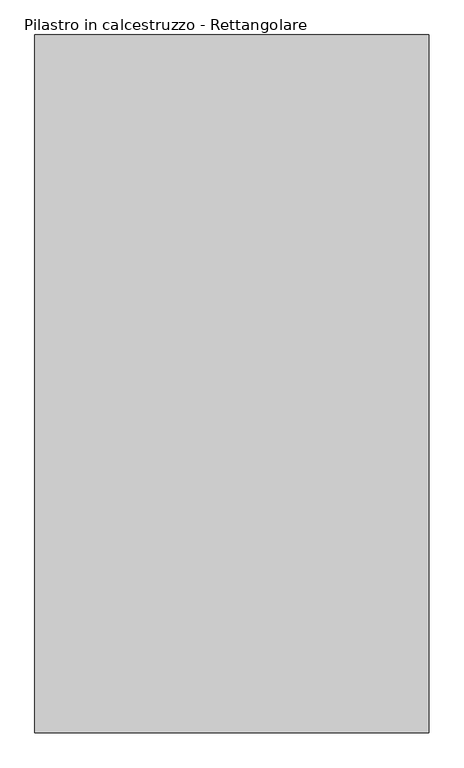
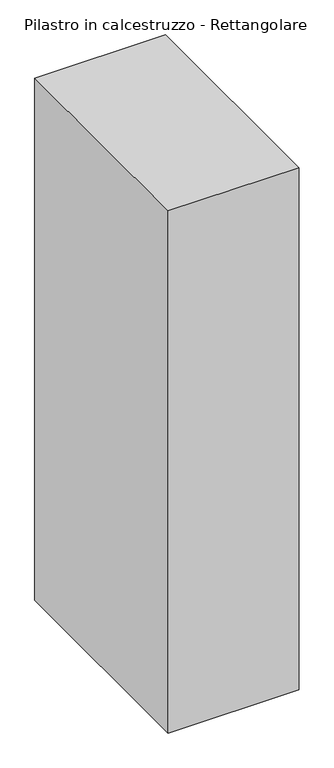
"""IFC4 building model written with IfcOpenShell, lengths in millimetres: column geometry, Pilastro in calcestruzzo - Rettangolare : 176*99.5."""

from ifc_helpers import new_model, si_unit, origin, origin_with_axes, place, context, project, spatial, polyline, outline, extrude, source, transform, mapped, element, save


def pilastro_in_calcestruzzo_rettangolare_0d96be71(model_context):
    return source(origin(), model_context, "Body", "SweptSolid", [
        extrude(outline(polyline([(497.5, 880.0), (497.5, -880.0), (-497.5, -880.0), (-497.5, 880.0), (497.5, 880.0)])), origin_with_axes(), (0.0, 0.0, 1.0), 4200.0),
    ])


if __name__ == "__main__":
    model = new_model("IFC4")
    model_context = context("Model", 3, world=origin())
    ifc_project = project(units=[si_unit("LENGTHUNIT", "METRE", prefix="MILLI")], contexts=[model_context])
    site = spatial("IfcSite", under=ifc_project)
    building = spatial("IfcBuilding", under=site)
    placement = place(None, origin())
    pilastro_in_calcestruzzo_rettangolare_shape = pilastro_in_calcestruzzo_rettangolare_0d96be71(model_context)
    element("IfcColumn", 1, ObjectType="Pilastro in calcestruzzo - Rettangolare : 176*99.5", at=placement, inside=building, context=model_context, shape_type="MappedRepresentation", body=[
        mapped(pilastro_in_calcestruzzo_rettangolare_shape, transform((0.0, 0.0, 0.0), x_axis=(1.0, 0.0, 0.0), y_axis=(0.0, 1.0, 0.0), z_axis=(0.0, 0.0, 1.0))),
    ])
    save(model, "model.ifc")
